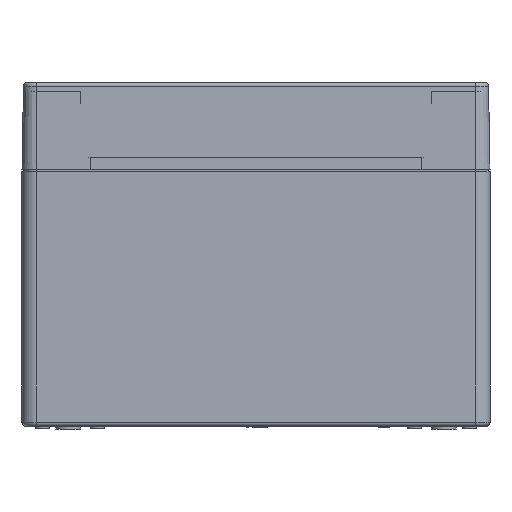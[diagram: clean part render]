
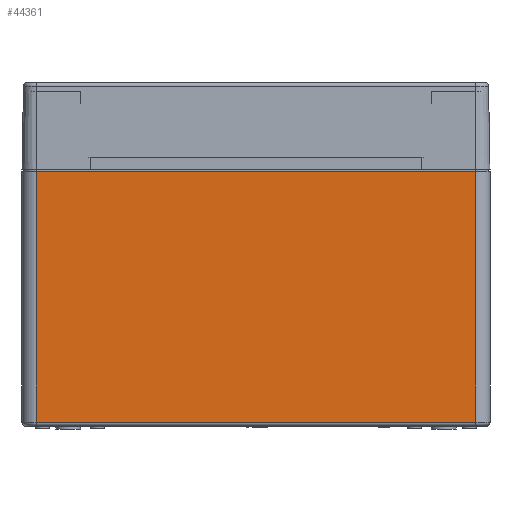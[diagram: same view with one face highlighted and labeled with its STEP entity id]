
A CAD part, front view. The second image highlights one B-rep face of the part: STEP entity #44361.
In plain terms, the highlighted planar face has unit normal (0, -1, 0).
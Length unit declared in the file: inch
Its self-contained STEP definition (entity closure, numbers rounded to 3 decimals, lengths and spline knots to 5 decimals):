
#3660 = EDGE_CURVE ( 'NONE', #72648, #65545, #55381, .T. ) ;
#4763 = CARTESIAN_POINT ( 'NONE',  ( -2.99213, -4.96063, 0. ) ) ;
#4972 = VERTEX_POINT ( 'NONE', #73207 ) ;
#5108 = DIRECTION ( 'NONE',  ( 0., 1., 0. ) ) ;
#7550 = CARTESIAN_POINT ( 'NONE',  ( 2.99213, -4.96063, -0.06693 ) ) ;
#11001 = ORIENTED_EDGE ( 'NONE', *, *, #48446, .F. ) ;
#17505 = CARTESIAN_POINT ( 'NONE',  ( -2.99213, -4.96063, -0.06693 ) ) ;
#18490 = DIRECTION ( 'NONE',  ( 0., 0., -1. ) ) ;
#26448 = LINE ( 'NONE', #53497, #28859 ) ;
#26634 = DIRECTION ( 'NONE',  ( 0., 0., -1. ) ) ;
#27892 = DIRECTION ( 'NONE',  ( 1., 0., 0. ) ) ;
#27954 = CARTESIAN_POINT ( 'NONE',  ( 2.99213, -4.96063, 0. ) ) ;
#28859 = VECTOR ( 'NONE', #47278, 39.37008 ) ;
#31112 = EDGE_CURVE ( 'NONE', #72648, #4972, #58337, .T. ) ;
#32070 = VECTOR ( 'NONE', #27892, 39.37008 ) ;
#34314 = AXIS2_PLACEMENT_3D ( 'NONE', #27954, #5108, #48338 ) ;
#41205 = ORIENTED_EDGE ( 'NONE', *, *, #31112, .T. ) ;
#44361 = ADVANCED_FACE ( 'NONE', ( #47903 ), #82005, .F. ) ;
#47278 = DIRECTION ( 'NONE',  ( -1., 0., 0. ) ) ;
#47354 = VECTOR ( 'NONE', #26634, 39.37008 ) ;
#47903 = FACE_OUTER_BOUND ( 'NONE', #80246, .T. ) ;
#48338 = DIRECTION ( 'NONE',  ( 0., 0., 1. ) ) ;
#48446 = EDGE_CURVE ( 'NONE', #60242, #4972, #26448, .T. ) ;
#49429 = CARTESIAN_POINT ( 'NONE',  ( 2.99213, -4.96063, -3.48425 ) ) ;
#52207 = VECTOR ( 'NONE', #18490, 39.37008 ) ;
#53497 = CARTESIAN_POINT ( 'NONE',  ( 2.99213, -4.96063, -3.48425 ) ) ;
#55381 = LINE ( 'NONE', #7550, #32070 ) ;
#58337 = LINE ( 'NONE', #4763, #52207 ) ;
#60242 = VERTEX_POINT ( 'NONE', #49429 ) ;
#65545 = VERTEX_POINT ( 'NONE', #73471 ) ;
#66778 = EDGE_CURVE ( 'NONE', #65545, #60242, #79427, .T. ) ;
#72648 = VERTEX_POINT ( 'NONE', #17505 ) ;
#73207 = CARTESIAN_POINT ( 'NONE',  ( -2.99213, -4.96063, -3.48425 ) ) ;
#73372 = ORIENTED_EDGE ( 'NONE', *, *, #66778, .F. ) ;
#73471 = CARTESIAN_POINT ( 'NONE',  ( 2.99213, -4.96063, -0.06693 ) ) ;
#74606 = ORIENTED_EDGE ( 'NONE', *, *, #3660, .F. ) ;
#79427 = LINE ( 'NONE', #87345, #47354 ) ;
#80246 = EDGE_LOOP ( 'NONE', ( #74606, #41205, #11001, #73372 ) ) ;
#82005 = PLANE ( 'NONE',  #34314 ) ;
#87345 = CARTESIAN_POINT ( 'NONE',  ( 2.99213, -4.96063, 0. ) ) ;
